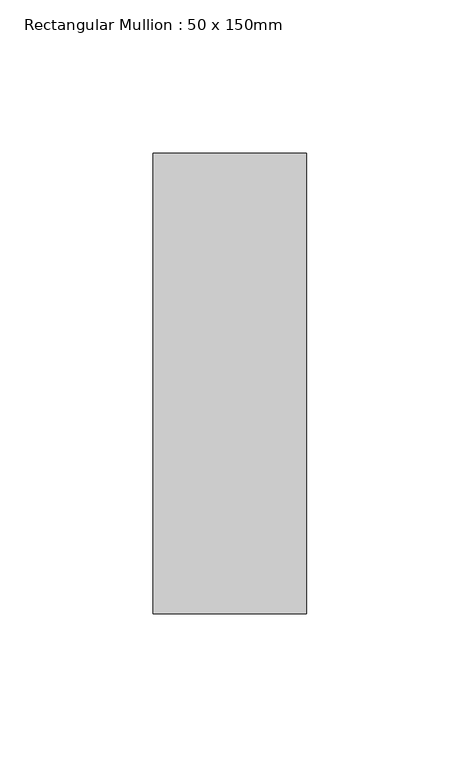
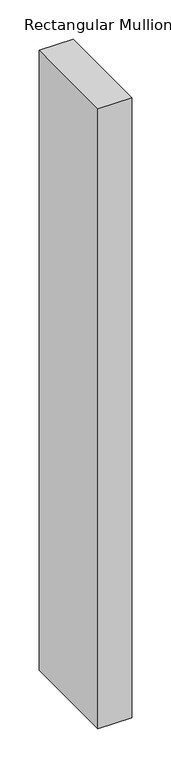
"""IFC4 building model written with IfcOpenShell, lengths in millimetres: member geometry, Rectangular Mullion : 50 x 150mm."""

from ifc_helpers import new_model, si_unit, frame, origin, place, context, project, spatial, polyline, outline, extrude, source, transform, mapped, element, save


def rectangular_mullion_50_x_150mm_795c251c(model_context):
    return source(origin(), model_context, "Body", "SweptSolid", [
        extrude(outline(polyline([(0.0, 75.0), (0.0, -75.0), (-50.0, -75.0), (-50.0, 75.0), (0.0, 75.0)])), frame((0.0, 0.0, -966.6666665), z_axis=(0.0, 0.0, 1.0), x_axis=(1.0, 0.0, 0.0)), (0.0, 0.0, 1.0), 966.6666665),
    ])


if __name__ == "__main__":
    model = new_model("IFC4")
    model_context = context("Model", 3, world=origin())
    ifc_project = project(units=[si_unit("LENGTHUNIT", "METRE", prefix="MILLI")], contexts=[model_context])
    site = spatial("IfcSite", under=ifc_project)
    building = spatial("IfcBuilding", under=site)
    placement = place(None, origin())
    rectangular_mullion_50_x_150mm_shape = rectangular_mullion_50_x_150mm_795c251c(model_context)
    element("IfcMember", 1, ObjectType="Rectangular Mullion : 50 x 150mm", at=placement, inside=building, context=model_context, shape_type="MappedRepresentation", body=[
        mapped(rectangular_mullion_50_x_150mm_shape, transform((0.0, 0.0, 0.0), x_axis=(1.0, 0.0, 0.0), y_axis=(0.0, 1.0, 0.0), z_axis=(0.0, 0.0, 1.0))),
    ])
    save(model, "model.ifc")
